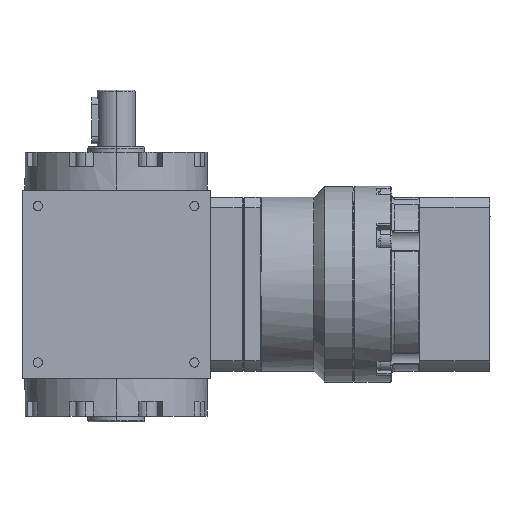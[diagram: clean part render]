
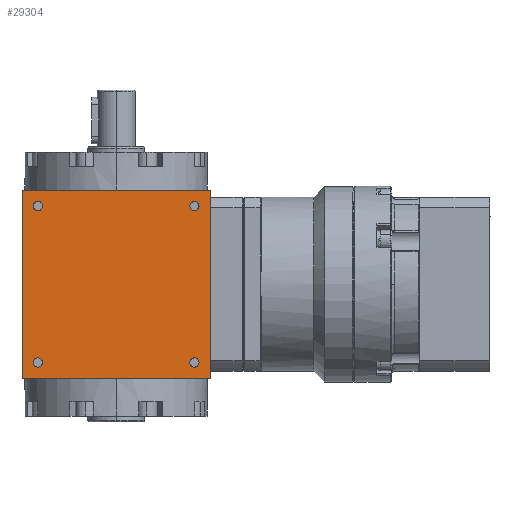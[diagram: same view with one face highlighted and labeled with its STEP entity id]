
A CAD part, left-side view. The second image highlights one B-rep face of the part: STEP entity #29304.
In plain terms, the highlighted planar face has unit normal (-1, 0, 0).
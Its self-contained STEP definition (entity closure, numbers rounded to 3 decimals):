
#722 = CARTESIAN_POINT ( 'NONE',  ( -32.5, -27., 28.6 ) ) ;
#1142 = VECTOR ( 'NONE', #12264, 1000. ) ;
#1459 = CARTESIAN_POINT ( 'NONE',  ( -32.5, 27., 27. ) ) ;
#1550 = DIRECTION ( 'NONE',  ( 0., -1., 0. ) ) ;
#1609 = VERTEX_POINT ( 'NONE', #29291 ) ;
#1857 = EDGE_CURVE ( 'NONE', #37184, #25505, #26756, .T. ) ;
#2016 = EDGE_CURVE ( 'NONE', #39940, #34548, #42970, .T. ) ;
#2058 = ORIENTED_EDGE ( 'NONE', *, *, #15676, .T. ) ;
#2465 = DIRECTION ( 'NONE',  ( 1., 0., 0. ) ) ;
#2746 = DIRECTION ( 'NONE',  ( 1., 0., 0. ) ) ;
#2772 = CIRCLE ( 'NONE', #24185, 1.6 ) ;
#2862 = EDGE_CURVE ( 'NONE', #11511, #19574, #40821, .T. ) ;
#3085 = CARTESIAN_POINT ( 'NONE',  ( -32.5, -27., 27. ) ) ;
#3286 = CARTESIAN_POINT ( 'NONE',  ( -32.5, -32.5, -32.5 ) ) ;
#3392 = DIRECTION ( 'NONE',  ( 0., 0., 1. ) ) ;
#3640 = EDGE_LOOP ( 'NONE', ( #42841, #2058 ) ) ;
#3950 = CIRCLE ( 'NONE', #29787, 1.6 ) ;
#4125 = EDGE_CURVE ( 'NONE', #1609, #10170, #12063, .T. ) ;
#4663 = AXIS2_PLACEMENT_3D ( 'NONE', #37646, #31610, #24707 ) ;
#4688 = CARTESIAN_POINT ( 'NONE',  ( -32.5, 27., -25.4 ) ) ;
#4975 = CARTESIAN_POINT ( 'NONE',  ( -32.5, 27., 27. ) ) ;
#5136 = AXIS2_PLACEMENT_3D ( 'NONE', #38937, #42426, #3392 ) ;
#5195 = DIRECTION ( 'NONE',  ( 1., 0., 0. ) ) ;
#6111 = AXIS2_PLACEMENT_3D ( 'NONE', #4975, #5195, #22304 ) ;
#6502 = ORIENTED_EDGE ( 'NONE', *, *, #31492, .F. ) ;
#7046 = CARTESIAN_POINT ( 'NONE',  ( -32.5, -27., -28.6 ) ) ;
#10170 = VERTEX_POINT ( 'NONE', #4688 ) ;
#10337 = FACE_OUTER_BOUND ( 'NONE', #33945, .T. ) ;
#10577 = EDGE_CURVE ( 'NONE', #19574, #30812, #14790, .T. ) ;
#10774 = ORIENTED_EDGE ( 'NONE', *, *, #34652, .T. ) ;
#11511 = VERTEX_POINT ( 'NONE', #34330 ) ;
#11962 = EDGE_LOOP ( 'NONE', ( #23320, #30757 ) ) ;
#12063 = CIRCLE ( 'NONE', #4663, 1.6 ) ;
#12163 = ORIENTED_EDGE ( 'NONE', *, *, #2862, .F. ) ;
#12234 = LINE ( 'NONE', #37379, #44425 ) ;
#12264 = DIRECTION ( 'NONE',  ( 0., 0., -1. ) ) ;
#12891 = DIRECTION ( 'NONE',  ( 0., 0., 1. ) ) ;
#14065 = DIRECTION ( 'NONE',  ( 0., 0., 1. ) ) ;
#14348 = ORIENTED_EDGE ( 'NONE', *, *, #43713, .T. ) ;
#14702 = DIRECTION ( 'NONE',  ( 0., -1., 0. ) ) ;
#14717 = CIRCLE ( 'NONE', #5136, 1.6 ) ;
#14731 = CARTESIAN_POINT ( 'NONE',  ( -32.5, -27., -25.4 ) ) ;
#14790 = LINE ( 'NONE', #15269, #1142 ) ;
#15269 = CARTESIAN_POINT ( 'NONE',  ( -32.5, -32.5, -32.5 ) ) ;
#15676 = EDGE_CURVE ( 'NONE', #26792, #25937, #3950, .T. ) ;
#16332 = CARTESIAN_POINT ( 'NONE',  ( -32.5, -27., -27. ) ) ;
#16418 = CIRCLE ( 'NONE', #42946, 1.6 ) ;
#16515 = VECTOR ( 'NONE', #1550, 1000. ) ;
#17372 = CARTESIAN_POINT ( 'NONE',  ( -32.5, -32.5, 32.5 ) ) ;
#18169 = FACE_BOUND ( 'NONE', #11962, .T. ) ;
#18524 = EDGE_LOOP ( 'NONE', ( #45692, #35977 ) ) ;
#18682 = CARTESIAN_POINT ( 'NONE',  ( -32.5, 27., -27. ) ) ;
#19118 = CARTESIAN_POINT ( 'NONE',  ( -32.5, 0., 32.5 ) ) ;
#19574 = VERTEX_POINT ( 'NONE', #17372 ) ;
#21145 = DIRECTION ( 'NONE',  ( 0., -1., 0. ) ) ;
#21410 = CARTESIAN_POINT ( 'NONE',  ( -32.5, 32.5, -32.5 ) ) ;
#21644 = DIRECTION ( 'NONE',  ( -1., 0., 0. ) ) ;
#22304 = DIRECTION ( 'NONE',  ( 0., 0., 1. ) ) ;
#22846 = DIRECTION ( 'NONE',  ( 0., 0., 1. ) ) ;
#23320 = ORIENTED_EDGE ( 'NONE', *, *, #1857, .T. ) ;
#24185 = AXIS2_PLACEMENT_3D ( 'NONE', #1459, #25980, #40290 ) ;
#24417 = FACE_BOUND ( 'NONE', #18524, .T. ) ;
#24654 = ORIENTED_EDGE ( 'NONE', *, *, #10577, .F. ) ;
#24707 = DIRECTION ( 'NONE',  ( 0., 0., 1. ) ) ;
#25157 = CARTESIAN_POINT ( 'NONE',  ( -32.5, -27., 25.4 ) ) ;
#25505 = VERTEX_POINT ( 'NONE', #7046 ) ;
#25937 = VERTEX_POINT ( 'NONE', #722 ) ;
#25980 = DIRECTION ( 'NONE',  ( 1., 0., 0. ) ) ;
#26756 = CIRCLE ( 'NONE', #33373, 1.6 ) ;
#26792 = VERTEX_POINT ( 'NONE', #25157 ) ;
#27383 = DIRECTION ( 'NONE',  ( 0., 0., 1. ) ) ;
#27850 = CARTESIAN_POINT ( 'NONE',  ( -32.5, 0., -32.5 ) ) ;
#28112 = EDGE_LOOP ( 'NONE', ( #14348, #40079 ) ) ;
#28208 = EDGE_CURVE ( 'NONE', #25505, #37184, #14717, .T. ) ;
#29291 = CARTESIAN_POINT ( 'NONE',  ( -32.5, 27., -28.6 ) ) ;
#29304 = ADVANCED_FACE ( 'NONE', ( #10337, #24417, #35940, #18169, #32723 ), #38730, .T. ) ;
#29787 = AXIS2_PLACEMENT_3D ( 'NONE', #30494, #2746, #33507 ) ;
#30365 = AXIS2_PLACEMENT_3D ( 'NONE', #3085, #31504, #27383 ) ;
#30494 = CARTESIAN_POINT ( 'NONE',  ( -32.5, -27., 27. ) ) ;
#30757 = ORIENTED_EDGE ( 'NONE', *, *, #28208, .T. ) ;
#30812 = VERTEX_POINT ( 'NONE', #3286 ) ;
#31492 = EDGE_CURVE ( 'NONE', #33983, #11511, #12234, .T. ) ;
#31504 = DIRECTION ( 'NONE',  ( 1., 0., 0. ) ) ;
#31610 = DIRECTION ( 'NONE',  ( 1., 0., 0. ) ) ;
#32561 = CIRCLE ( 'NONE', #30365, 1.6 ) ;
#32723 = FACE_BOUND ( 'NONE', #28112, .T. ) ;
#33157 = AXIS2_PLACEMENT_3D ( 'NONE', #21410, #21644, #14702 ) ;
#33373 = AXIS2_PLACEMENT_3D ( 'NONE', #16332, #2465, #12891 ) ;
#33507 = DIRECTION ( 'NONE',  ( 0., 0., 1. ) ) ;
#33659 = CARTESIAN_POINT ( 'NONE',  ( -32.5, 27., 25.4 ) ) ;
#33945 = EDGE_LOOP ( 'NONE', ( #6502, #10774, #24654, #12163 ) ) ;
#33983 = VERTEX_POINT ( 'NONE', #45468 ) ;
#34330 = CARTESIAN_POINT ( 'NONE',  ( -32.5, 32.5, 32.5 ) ) ;
#34548 = VERTEX_POINT ( 'NONE', #33659 ) ;
#34652 = EDGE_CURVE ( 'NONE', #33983, #30812, #35449, .T. ) ;
#35449 = LINE ( 'NONE', #27850, #43515 ) ;
#35940 = FACE_BOUND ( 'NONE', #3640, .T. ) ;
#35977 = ORIENTED_EDGE ( 'NONE', *, *, #39621, .T. ) ;
#37184 = VERTEX_POINT ( 'NONE', #14731 ) ;
#37379 = CARTESIAN_POINT ( 'NONE',  ( -32.5, 32.5, -32.5 ) ) ;
#37646 = CARTESIAN_POINT ( 'NONE',  ( -32.5, 27., -27. ) ) ;
#38730 = PLANE ( 'NONE',  #33157 ) ;
#38937 = CARTESIAN_POINT ( 'NONE',  ( -32.5, -27., -27. ) ) ;
#39621 = EDGE_CURVE ( 'NONE', #34548, #39940, #2772, .T. ) ;
#39940 = VERTEX_POINT ( 'NONE', #43693 ) ;
#40079 = ORIENTED_EDGE ( 'NONE', *, *, #4125, .T. ) ;
#40290 = DIRECTION ( 'NONE',  ( 0., 0., 1. ) ) ;
#40821 = LINE ( 'NONE', #19118, #16515 ) ;
#42426 = DIRECTION ( 'NONE',  ( 1., 0., 0. ) ) ;
#42730 = EDGE_CURVE ( 'NONE', #25937, #26792, #32561, .T. ) ;
#42841 = ORIENTED_EDGE ( 'NONE', *, *, #42730, .T. ) ;
#42946 = AXIS2_PLACEMENT_3D ( 'NONE', #18682, #45719, #14065 ) ;
#42970 = CIRCLE ( 'NONE', #6111, 1.6 ) ;
#43515 = VECTOR ( 'NONE', #21145, 1000. ) ;
#43693 = CARTESIAN_POINT ( 'NONE',  ( -32.5, 27., 28.6 ) ) ;
#43713 = EDGE_CURVE ( 'NONE', #10170, #1609, #16418, .T. ) ;
#44425 = VECTOR ( 'NONE', #22846, 1000. ) ;
#45468 = CARTESIAN_POINT ( 'NONE',  ( -32.5, 32.5, -32.5 ) ) ;
#45692 = ORIENTED_EDGE ( 'NONE', *, *, #2016, .T. ) ;
#45719 = DIRECTION ( 'NONE',  ( 1., 0., 0. ) ) ;
